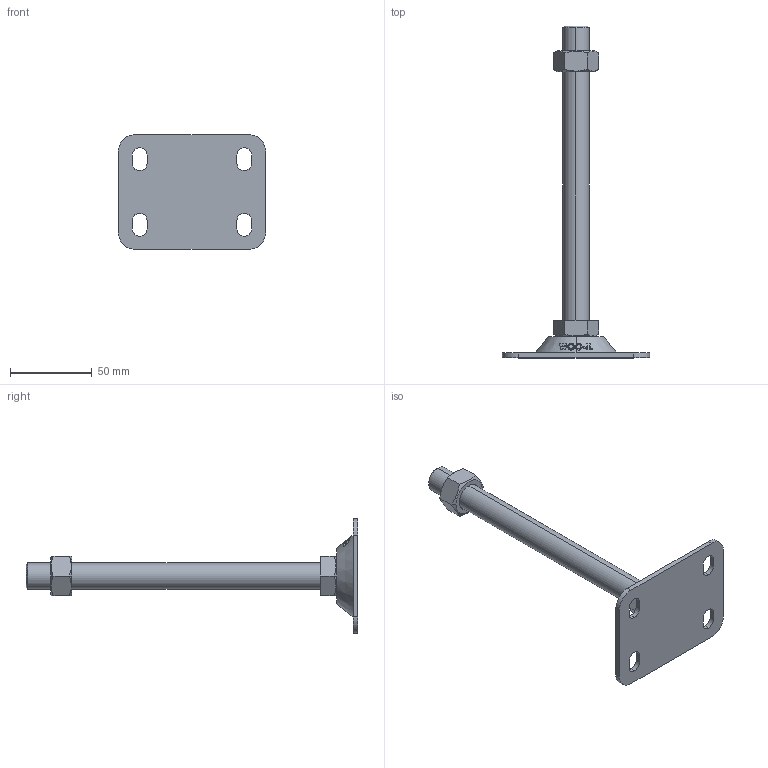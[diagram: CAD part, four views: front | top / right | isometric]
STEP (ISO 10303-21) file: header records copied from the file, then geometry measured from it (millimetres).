
FILE_DESCRIPTION (( 'STEP AP214' ), '1' );
FILE_NAME ('FABL7090-M16-180.step', '2021-03-28T23:51:48', ( '' ), ( '' ), 'SwSTEP 2.0', 'SolidWorks 2019', '' );
FILE_SCHEMA (( 'AUTOMOTIVE_DESIGN' ));
Length unit declared in the file: millimetre
Products named in the file (2): FABL7090-M16-180
Bounding box: 90 x 203 x 70 mm (x, y, z)
Volume: 76218.7 mm3; surface area: 25847.9 mm2
Topology: 2 solids, 2 shells, 146 faces, 384 edges, 252 vertices
Faces by surface type: plane 58, cylinder 48, cone 22, bspline 18
Entity records: 6084 total; most frequent: CARTESIAN_POINT 2656, ORIENTED_EDGE 768, DIRECTION 582, EDGE_CURVE 384, VERTEX_POINT 252, AXIS2_PLACEMENT_3D 210, EDGE_LOOP 166, VECTOR 162
